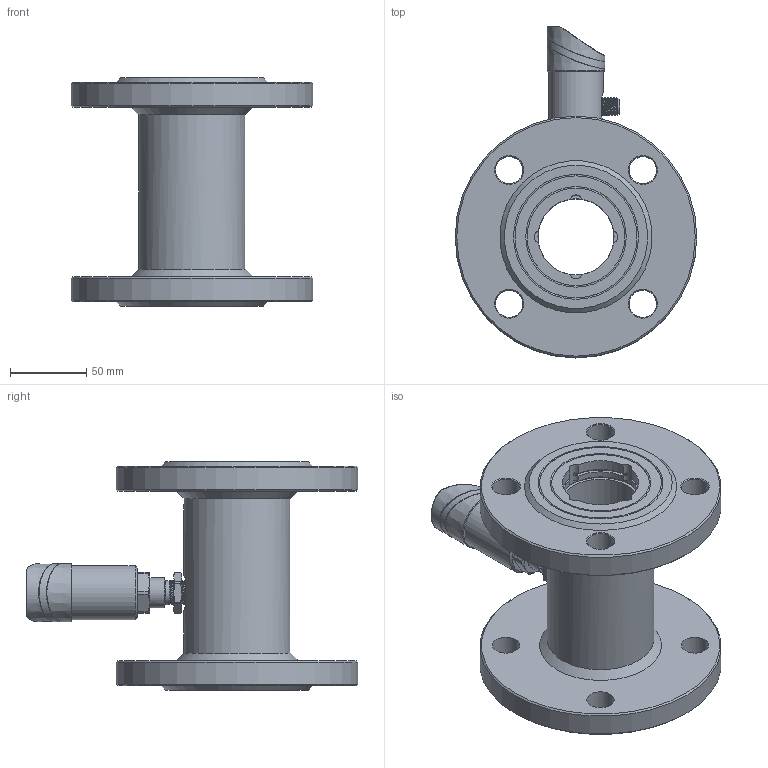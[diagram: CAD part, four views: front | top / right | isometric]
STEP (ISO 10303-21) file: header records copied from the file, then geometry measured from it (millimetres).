
FILE_DESCRIPTION( (''), '2;1');
FILE_NAME( 'QTKE_DN50_flange.step', '2024-10-14T15:02:37+08:00', (''), (''), '', '', '');
FILE_SCHEMA (('AUTOMOTIVE_DESIGN { 1 0 10303 214 3 1 1 1 }'));
Length unit declared in the file: millimetre
Products named in the file (1): QTKE DN50_flange
Bounding box: 158.5 x 217.75 x 150 mm (x, y, z)
Volume: 855922.9 mm3; surface area: 163326.1 mm2
Topology: 5 solids, 6 shells, 809 faces, 2111 edges, 1381 vertices
Faces by surface type: plane 297, cylinder 179, extrusion 141, cone 85, bspline 60, torus 36, sphere 11
Full cylindrical faces by diameter (mm): 1.689 x1, 2.7 x3, 12 x1, 15.9 x1, 16.5 x2, 18 x8, 20 x1, 23 x3, 26 x5, 35.5 x1, 37.001 x1, 50 x1, 70 x1, 158.5 x2
Entity records: 35473 total; most frequent: CARTESIAN_POINT 15275, ORIENTED_EDGE 3976, DIRECTION 3359, EDGE_CURVE 1988, VERTEX_POINT 1340, AXIS2_PLACEMENT_3D 1172, VECTOR 1015, EDGE_LOOP 980
